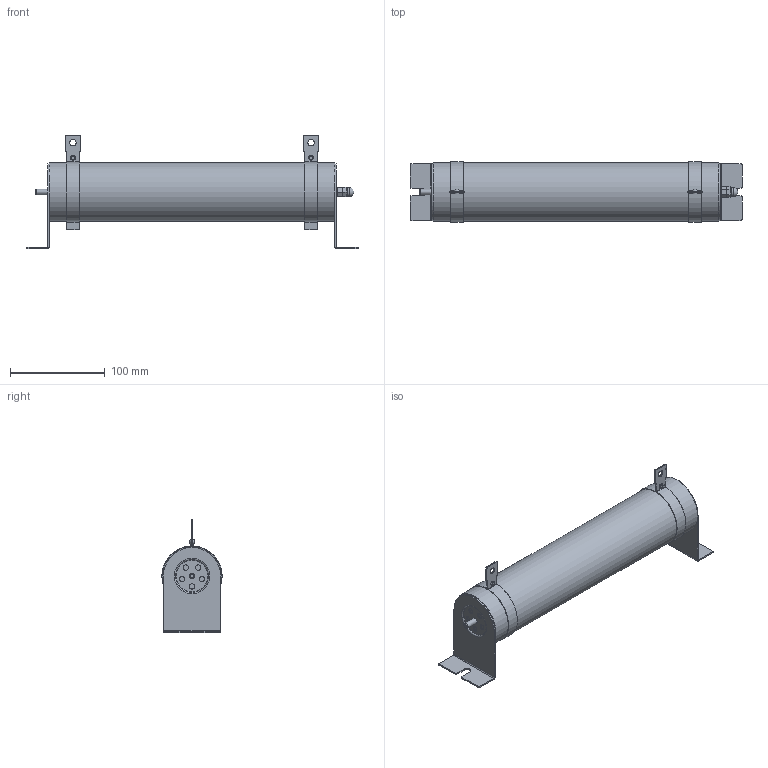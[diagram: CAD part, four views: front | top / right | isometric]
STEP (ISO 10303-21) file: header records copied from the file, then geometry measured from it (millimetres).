
FILE_DESCRIPTION(('STEP AP203'), '1');
FILE_NAME('Ðåçèñòîð òîðìîçíîé _ 1000 Âò 100 Îì', '', ('UNSPECIFIED'), ('UNSPECIFIED'), 'C3D Converter', 'C3D Toolkit', '');
FILE_SCHEMA(('CONFIG_CONTROL_DESIGN'));
Length unit declared in the file: millimetre
Products named in the file (16): 1000 Вт 100 Ом; РТ 1000 Вт 100 Ом; ГОСТ 22032-76; DIN 125 (A); DIN 127 (A); DIN 934; ГОСТ 11860-85; ГОСТ 10299-80
Assembly tree (19 placements, depth 3):
  1000 Вт 100 Ом
    РТ 1000 Вт 100 Ом
    РТ 1000 Вт 100 Ом  x2
    ГОСТ 22032-76  x2
      (unnamed)
    DIN 125 (A)
      (unnamed)
    DIN 127 (A)
      (unnamed)
    DIN 934
      (unnamed)
    ГОСТ 11860-85
      (unnamed)
    РТ 1000 Вт 100 Ом  x2
    ГОСТ 10299-80  x2
      (unnamed)
Bounding box: 350 x 63.5 x 120 mm (x, y, z)
Volume: 926971.8 mm3; surface area: 109269 mm2
Topology: 15 solids, 15 shells, 287 faces, 632 edges, 385 vertices
Faces by surface type: plane 142, cylinder 108, cone 22, torus 12, sphere 3
Full cylindrical faces by diameter (mm): 3.5 x6, 4.917 x2, 5.7 x10, 6 x4, 6.4 x1, 6.5 x2, 6.8 x4, 9.5 x1, 12 x1, 35 x2, 62 x1
Entity records: 6908 total; most frequent: CARTESIAN_POINT 1807, DIRECTION 828, ORIENTED_EDGE 666, AXIS2_PLACEMENT_3D 342, EDGE_CURVE 333, EDGE_LOOP 242, VERTEX_POINT 225, ADVANCED_FACE 173
